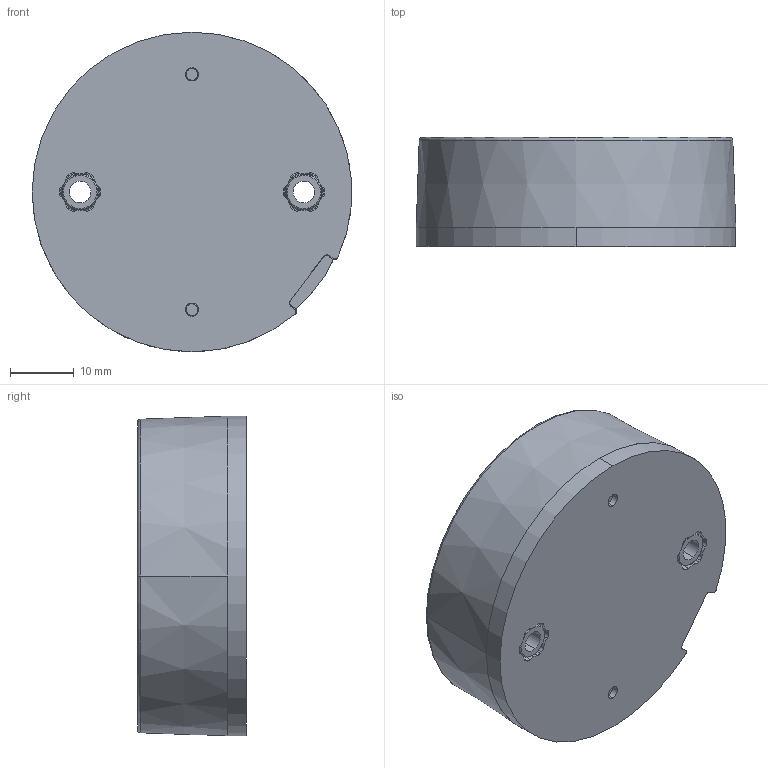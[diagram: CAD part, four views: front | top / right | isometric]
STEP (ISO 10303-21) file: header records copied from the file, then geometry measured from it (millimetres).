
FILE_DESCRIPTION (( 'STEP AP203' ), '1' );
FILE_NAME ('80.002.082.01 A CTM1C+19 2000L 35W PROFILE.STEP', '2017-08-31T17:18:56', ( '' ), ( '' ), 'SwSTEP 2.0', 'SolidWorks 2017', '' );
FILE_SCHEMA (( 'CONFIG_CONTROL_DESIGN' ));
Length unit declared in the file: millimetre
Products named in the file (1): 80.002.082.01 A CTM1C+19 2000L 35W PROFILE
Bounding box: 50 x 17.04 x 50 mm (x, y, z)
Volume: 16618.6 mm3; surface area: 24180.7 mm2
Topology: 14 solids, 14 shells, 1693 faces, 4644 edges, 3005 vertices
Faces by surface type: cylinder 1010, plane 242, cone 219, bspline 119, torus 95, sphere 8
Entity records: 65507 total; most frequent: CARTESIAN_POINT 20776, DIRECTION 9330, ORIENTED_EDGE 9272, EDGE_CURVE 4636, AXIS2_PLACEMENT_3D 3870, VERTEX_POINT 3005, EDGE_LOOP 2503, CIRCLE 2295
